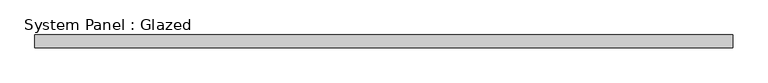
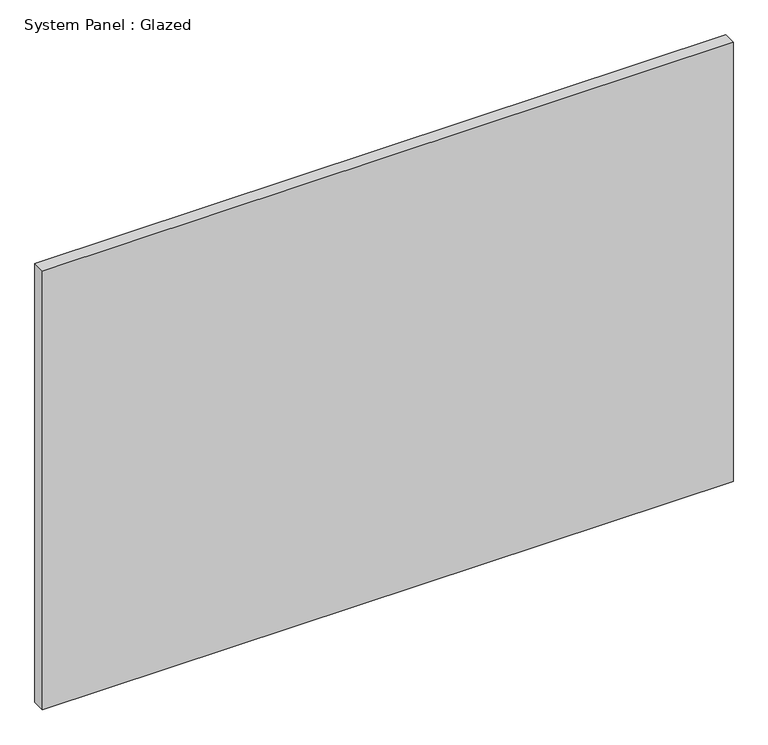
"""IFC4 building model written with IfcOpenShell, lengths in millimetres: plate geometry, System Panel : Glazed."""

import ifcopenshell
import ifcopenshell.guid

model = None  # the IFC model being written
_history = None  # IfcOwnerHistory: only IFC2X3 demands one
_inside = {}  # id of a spatial element -> (the spatial element, [elements in it])
_under = {}  # id of a project, library or spatial element -> (it, [spatial elements below it])
_declared = {}  # id of a project -> (the project, [libraries it declares])
_typed = {}  # id of a type object -> (the type object, [elements of that type])
_made_of = {}  # id of a material, layer set ... -> (it, [elements and type objects made of it])


def new_model(schema):
    """Start an empty IFC model of exactly this schema.

    Asked for "IFC4X3", IfcOpenShell would pick the latest addendum, in which some entities
    have other attributes; the version numbers below select the first issue.
    IFC2X3 requires an IfcOwnerHistory on every rooted entity: one is made here for all.
    """
    global model, _history
    if schema == "IFC4X3":
        model = ifcopenshell.file(schema_version=(4, 3, 0, 0))
    else:
        model = ifcopenshell.file(schema=schema)
    _inside.clear()
    _under.clear()
    _declared.clear()
    _typed.clear()
    _made_of.clear()
    _history = None
    if model.schema == "IFC2X3":
        org = make("IfcOrganization", Name="unknown")
        user = make(
            "IfcPersonAndOrganization",
            ThePerson=make("IfcPerson", FamilyName="unknown"),
            TheOrganization=org,
        )
        app = make(
            "IfcApplication",
            ApplicationDeveloper=org,
            Version="unknown",
            ApplicationFullName="unknown",
            ApplicationIdentifier="unknown",
        )
        _history = make(
            "IfcOwnerHistory",
            OwningUser=user,
            OwningApplication=app,
            ChangeAction="ADDED",
            CreationDate=0,
        )
    return model


def make(cls, **values):
    """One entity of the class cls with the attributes given. An attribute that is None is left unset."""
    return model.create_entity(
        cls, **{name: value for name, value in values.items() if value is not None}
    )


def rooted(cls, **values):
    """An entity with a GlobalId (a new one), such as an element, a storey or a relation."""
    return make(cls, GlobalId=ifcopenshell.guid.new(), OwnerHistory=_history, **values)


def si_unit(unit_type, name, prefix=None):
    """IfcSIUnit, for example si_unit("LENGTHUNIT", "METRE", prefix="MILLI")."""
    return make("IfcSIUnit", UnitType=unit_type, Prefix=prefix, Name=name)


def assignment(units):
    """IfcUnitAssignment: the units of a project."""
    return None if units is None else make("IfcUnitAssignment", Units=units)


def point(xyz):
    """IfcCartesianPoint."""
    return None if xyz is None else make("IfcCartesianPoint", Coordinates=xyz)


def direction(xyz):
    """IfcDirection."""
    return None if xyz is None else make("IfcDirection", DirectionRatios=xyz)


def frame(location, z_axis=None, x_axis=None):
    """IfcAxis2Placement3D, a coordinate frame: its origin and axes. An axis left out is left unset."""
    return make(
        "IfcAxis2Placement3D",
        Location=point(location),
        Axis=direction(z_axis),
        RefDirection=direction(x_axis),
    )


def origin():
    """The frame at (0, 0, 0) with its axes left unset."""
    return frame((0.0, 0.0, 0.0))


def origin_with_axes():
    """The frame at (0, 0, 0) with the z axis (0, 0, 1) and the x axis (1, 0, 0) written out."""
    return frame((0.0, 0.0, 0.0), z_axis=(0.0, 0.0, 1.0), x_axis=(1.0, 0.0, 0.0))


def place(relative_to, where):
    """IfcLocalPlacement: puts the frame where relative to a parent placement (None: the world)."""
    return make(
        "IfcLocalPlacement", PlacementRelTo=relative_to, RelativePlacement=where
    )


def context(
    kind, dimensions, precision=None, world=None, true_north=None, identifier=None
):
    """IfcGeometricRepresentationContext, for example the 3D "Model" context."""
    return make(
        "IfcGeometricRepresentationContext",
        ContextIdentifier=identifier,
        ContextType=kind,
        CoordinateSpaceDimension=dimensions,
        Precision=precision,
        WorldCoordinateSystem=world,
        TrueNorth=true_north,
    )


def project(units=None, contexts=None):
    """IfcProject with its units and contexts."""
    return rooted(
        "IfcProject",
        Name="project",
        RepresentationContexts=contexts,
        UnitsInContext=assignment(units),
    )


def spatial(cls, under=None, at=None, **own):
    """A site, building, storey or space (cls), placed at a placement, below another one or the project."""
    s = rooted(cls, ObjectPlacement=at, **own)
    if under is not None:
        _under.setdefault(under.id(), (under, []))[1].append(s)
    return s


def polyline(points):
    """IfcPolyline through the points."""
    return make("IfcPolyline", Points=[point(p) for p in points])


def outline(outer, holes=None, kind="AREA"):
    """IfcArbitraryClosedProfileDef: a profile drawn as a closed curve; with holes, ...WithVoids."""
    if holes is None:
        return make("IfcArbitraryClosedProfileDef", ProfileType=kind, OuterCurve=outer)
    return make(
        "IfcArbitraryProfileDefWithVoids",
        ProfileType=kind,
        OuterCurve=outer,
        InnerCurves=holes,
    )


def extrude(swept, where, along, depth):
    """IfcExtrudedAreaSolid: the profile swept, set in the frame where, extruded along a direction by depth."""
    return make(
        "IfcExtrudedAreaSolid",
        SweptArea=swept,
        Position=where,
        ExtrudedDirection=direction(along),
        Depth=depth,
    )


def shape(context_of_items, identifier, shape_type, items):
    """IfcShapeRepresentation: the items that make up one representation, for example the "Body"."""
    return make(
        "IfcShapeRepresentation",
        ContextOfItems=context_of_items,
        RepresentationIdentifier=identifier,
        RepresentationType=shape_type,
        Items=items,
    )


def source(mapping_origin, context_of_items, identifier, shape_type, items):
    """IfcRepresentationMap: a shape defined once, which mapped items show again and again."""
    return make(
        "IfcRepresentationMap",
        MappingOrigin=mapping_origin,
        MappedRepresentation=shape(context_of_items, identifier, shape_type, items),
    )


def transform(
    local_origin,
    x_axis=None,
    y_axis=None,
    z_axis=None,
    scale=None,
    scale2=None,
    scale3=None,
    uniform=True,
):
    """IfcCartesianTransformationOperator3D, or its non-uniform kind. x_axis, y_axis, z_axis: its Axis1, 2, 3."""
    if uniform:
        return make(
            "IfcCartesianTransformationOperator3D",
            Axis1=direction(x_axis),
            Axis2=direction(y_axis),
            LocalOrigin=point(local_origin),
            Scale=scale,
            Axis3=direction(z_axis),
        )
    return make(
        "IfcCartesianTransformationOperator3DnonUniform",
        Axis1=direction(x_axis),
        Axis2=direction(y_axis),
        LocalOrigin=point(local_origin),
        Scale=scale,
        Axis3=direction(z_axis),
        Scale2=scale2,
        Scale3=scale3,
    )


def mapped(mapping_source, mapping_target):
    """IfcMappedItem: shows the shape of a source again, moved by a transform."""
    return make(
        "IfcMappedItem", MappingSource=mapping_source, MappingTarget=mapping_target
    )


def made_of(thing, what):
    """Note that an element or type object is made of a material, layer set ...; save() writes the relation."""
    if what is not None:
        _made_of.setdefault(what.id(), (what, []))[1].append(thing)
    return thing


def element(
    cls,
    number,
    at=None,
    inside=None,
    cuts=None,
    type_object=None,
    material=None,
    context=None,
    identifier="Body",
    shape_type=None,
    held_by="IfcProductDefinitionShape",
    body=None,
    shapes=None,
    **own,
):
    """One element of the class cls, such as IfcWall. Its Tag is "e" and its number.

    at: its placement. inside: the storey or other place that contains it. cuts: it is an
    opening in that element (IfcRelVoidsElement). A single representation is given by context,
    identifier, shape_type and body (its items); several are given by shapes. held_by: the class
    of the entity that holds the representations. save() writes the other relations.
    """
    e = rooted(cls, Tag="e%d" % number, ObjectPlacement=at, **own)
    if body is not None:
        shapes = [shape(context, identifier, shape_type, body)]
    if shapes is not None:
        e.Representation = make(held_by, Representations=shapes)
    if inside is not None:
        _inside.setdefault(inside.id(), (inside, []))[1].append(e)
    if cuts is not None:
        rooted(
            "IfcRelVoidsElement", RelatingBuildingElement=cuts, RelatedOpeningElement=e
        )
    if type_object is not None:
        _typed.setdefault(type_object.id(), (type_object, []))[1].append(e)
    return made_of(e, material)


def aggregate(whole, parts):
    """IfcRelAggregates: a whole, such as a stair, and the parts it consists of."""
    return rooted("IfcRelAggregates", RelatingObject=whole, RelatedObjects=parts)


def save(model, path):
    """Write the relations noted so far, then the file.

    IfcRelAggregates (storeys below a building ...), IfcRelContainedInSpatialStructure (elements
    in a storey), IfcRelDefinesByType, IfcRelAssociatesMaterial and IfcRelDeclares: one each for
    every whole, place, type object, material and project.
    """
    for whole, parts in _under.values():
        aggregate(whole, parts)
    for where, things in _inside.values():
        rooted(
            "IfcRelContainedInSpatialStructure",
            RelatedElements=things,
            RelatingStructure=where,
        )
    for kind, things in _typed.values():
        rooted("IfcRelDefinesByType", RelatedObjects=things, RelatingType=kind)
    for what, things in _made_of.values():
        rooted("IfcRelAssociatesMaterial", RelatedObjects=things, RelatingMaterial=what)
    for by, libraries in _declared.values():
        rooted("IfcRelDeclares", RelatingContext=by, RelatedDefinitions=libraries)
    model.write(path)


def system_panel_glazed_17a94d02(model_context):
    return source(origin(), model_context, "Body", "SweptSolid", [
        extrude(outline(polyline([(680.0830663, 19.05), (-680.0830663, 19.05), (-680.0830663, 44.45), (680.0830663, 44.45), (680.0830663, 19.05)])), origin_with_axes(), (0.0, 0.0, 1.0), 914.4),
    ])


if __name__ == "__main__":
    model = new_model("IFC4")
    model_context = context("Model", 3, world=origin())
    ifc_project = project(units=[si_unit("LENGTHUNIT", "METRE", prefix="MILLI")], contexts=[model_context])
    site = spatial("IfcSite", under=ifc_project)
    building = spatial("IfcBuilding", under=site)
    placement = place(None, origin())
    system_panel_glazed_shape = system_panel_glazed_17a94d02(model_context)
    element("IfcPlate", 1, ObjectType="System Panel : Glazed", at=placement, inside=building, context=model_context, shape_type="MappedRepresentation", body=[
        mapped(system_panel_glazed_shape, transform((0.0, 0.0, 0.0), x_axis=(1.0, 0.0, 0.0), y_axis=(0.0, 1.0, 0.0), z_axis=(0.0, 0.0, 1.0))),
    ])
    save(model, "model.ifc")
